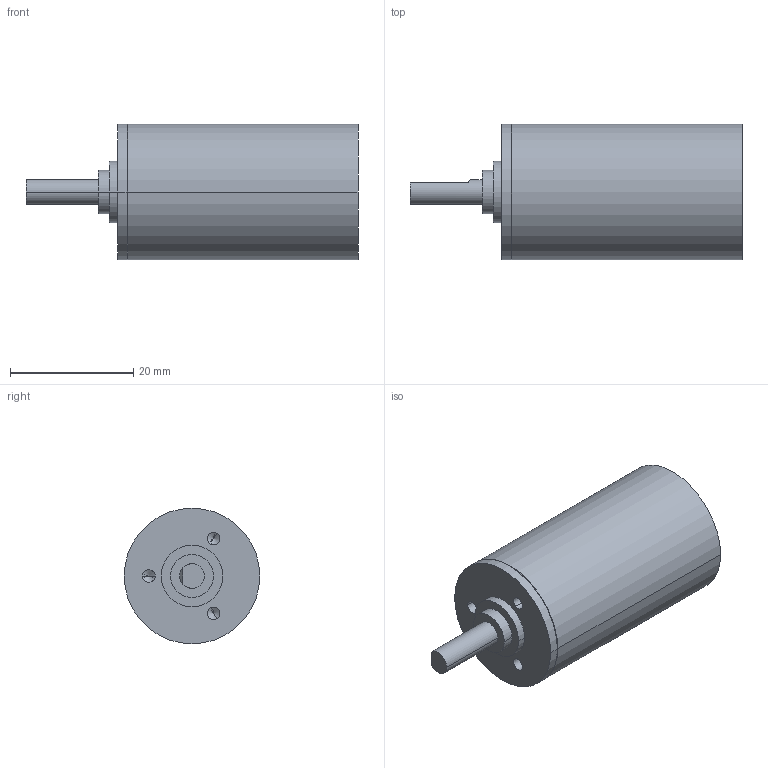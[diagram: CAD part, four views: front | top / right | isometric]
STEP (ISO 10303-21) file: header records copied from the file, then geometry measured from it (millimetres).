
FILE_DESCRIPTION((''),'2;1');
FILE_NAME('3562247','2016-10-04T',('mmagvisi'),(''),'CREO PARAMETRIC BY PTC INC, 2016050','CREO PARAMETRIC BY PTC INC, 2016050','');
FILE_SCHEMA(('CONFIG_CONTROL_DESIGN'));
Length unit declared in the file: millimetre
Products named in the file (1): 3562247
Bounding box: 53.85 x 22 x 22 mm (x, y, z)
Volume: 15077.3 mm3; surface area: 3802.3 mm2
Topology: 1 solids, 1 shells, 33 faces, 72 edges, 41 vertices
Faces by surface type: cylinder 16, cone 10, plane 7
Entity records: 1178 total; most frequent: DIRECTION 164, CARTESIAN_POINT 147, ORIENTED_EDGE 132, AXIS2_PLACEMENT_3D 67, PRESENTATION_STYLE_ASSIGNMENT 67, STYLED_ITEM 67, CURVE_STYLE 66, EDGE_CURVE 66
